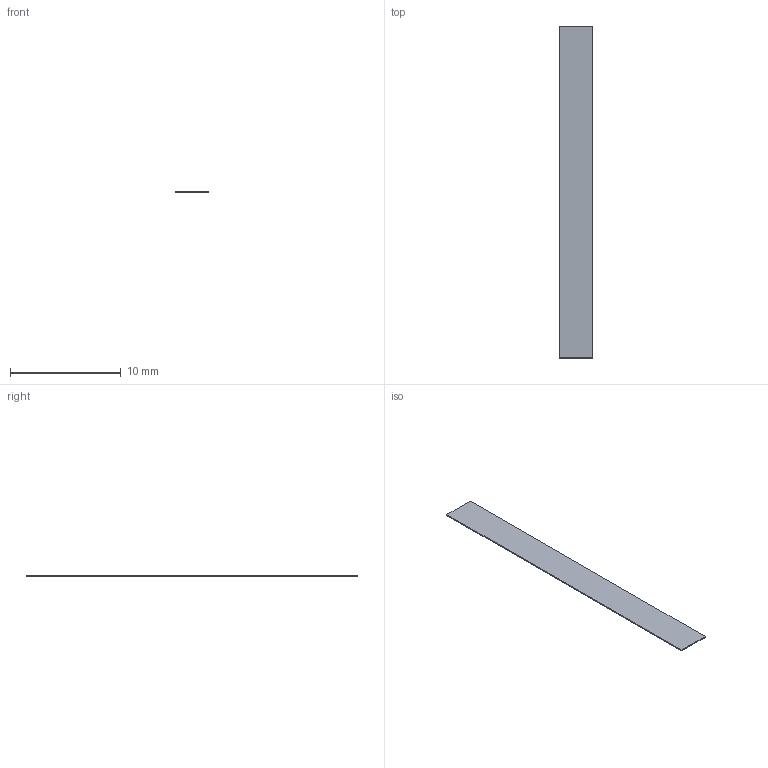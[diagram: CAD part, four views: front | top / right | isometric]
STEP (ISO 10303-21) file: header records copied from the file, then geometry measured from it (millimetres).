
FILE_DESCRIPTION(('Open CASCADE Model'),'2;1');
FILE_NAME('Open CASCADE Shape Model','2026-09-06T11:32:52',('Author'),( 'Open CASCADE'),'Open CASCADE STEP processor 7.7','Open CASCADE 7.7' ,'Unknown');
FILE_SCHEMA(('AUTOMOTIVE_DESIGN { 1 0 10303 214 1 1 1 1 }'));
Length unit declared in the file: millimetre
Products named in the file (1): Open CASCADE STEP translator 7.7 4
Bounding box: 3 x 30 x 0.1 mm (x, y, z)
Volume: 9 mm3; surface area: 186.6 mm2
Topology: 1 solids, 1 shells, 6 faces, 12 edges, 8 vertices
Faces by surface type: plane 6
Entity records: 306 total; most frequent: CARTESIAN_POINT 67, DIRECTION 34, ORIENTED_EDGE 24, PCURVE 24, DEFINITIONAL_REPRESENTATION 24, LINE 20, VECTOR 20, B_SPLINE_CURVE_WITH_KNOTS 16
